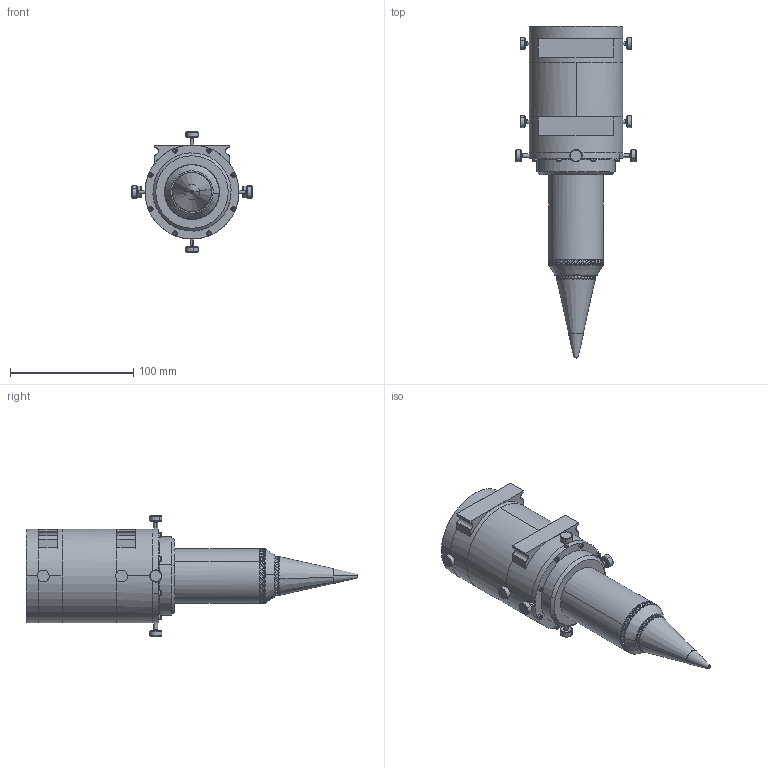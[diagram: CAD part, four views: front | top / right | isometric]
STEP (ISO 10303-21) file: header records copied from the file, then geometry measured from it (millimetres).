
FILE_DESCRIPTION (( 'STEP AP214' ), '1' );
FILE_NAME ('G3-50-51-191-254.STEP', '2017-03-28T15:07:56', ( '' ), ( '' ), 'SwSTEP 2.0', 'SolidWorks 2017', '' );
FILE_SCHEMA (( 'AUTOMOTIVE_DESIGN' ));
Length unit declared in the file: inch
Products named in the file (1): G3-50-51-191-254
Bounding box: 98.26 x 269.3 x 98.26 mm (x, y, z)
Volume: 664501.2 mm3; surface area: 84058.5 mm2
Topology: 1 solids, 1 shells, 1861 faces, 5145 edges, 3322 vertices
Faces by surface type: plane 1286, cylinder 462, cone 65, torus 44, bspline 4
Entity records: 59341 total; most frequent: CARTESIAN_POINT 15331, ORIENTED_EDGE 10290, DIRECTION 8177, EDGE_CURVE 5145, VERTEX_POINT 3322, LINE 2941, VECTOR 2941, AXIS2_PLACEMENT_3D 2618
